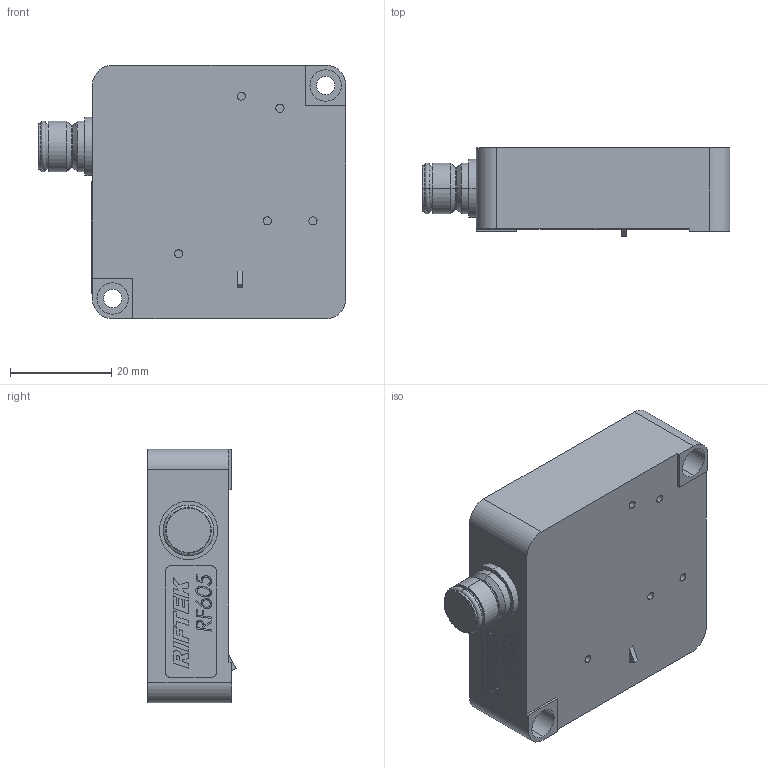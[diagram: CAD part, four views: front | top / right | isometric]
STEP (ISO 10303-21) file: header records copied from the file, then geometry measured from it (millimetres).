
FILE_DESCRIPTION (( 'STEP AP203' ), '1' );
FILE_NAME ('RF 605 DEMO.STEP', '2014-10-15T08:52:15', ( 'Serg' ), ( '' ), 'SwSTEP 2.0', 'SolidWorks 2012', '' );
FILE_SCHEMA (( 'CONFIG_CONTROL_DESIGN' ));
Length unit declared in the file: millimetre
Products named in the file (9): ﾋ珸褞; 縺膹樥罻; 扻豵瀀醨; Ôèëüòð_10õ4; Âèíò_Ì2õ4; RF 605 DEMO; RF603.00.22_斿膼_32_12; 620 Female Socket; êðûøêà
Assembly tree (11 placements, depth 2):
  RF 605 DEMO
    扻豵瀀醨
    RF603.00.22_斿膼_32_12
    Ôèëüòð_10õ4
    ﾋ珸褞
    êðûøêà
    Âèíò_Ì2õ4  x4
    縺膹樥罻
    620 Female Socket
Bounding box: 60.7 x 17.41 x 50 mm (x, y, z)
Volume: 15444.6 mm3; surface area: 19556.3 mm2
Topology: 11 solids, 11 shells, 503 faces, 1274 edges, 827 vertices
Faces by surface type: plane 271, cylinder 111, cone 66, bspline 43, torus 12
Entity records: 16236 total; most frequent: CARTESIAN_POINT 4831, ORIENTED_EDGE 2176, DIRECTION 2087, EDGE_CURVE 1088, VERTEX_POINT 707, VECTOR 701, LINE 701, AXIS2_PLACEMENT_3D 693
